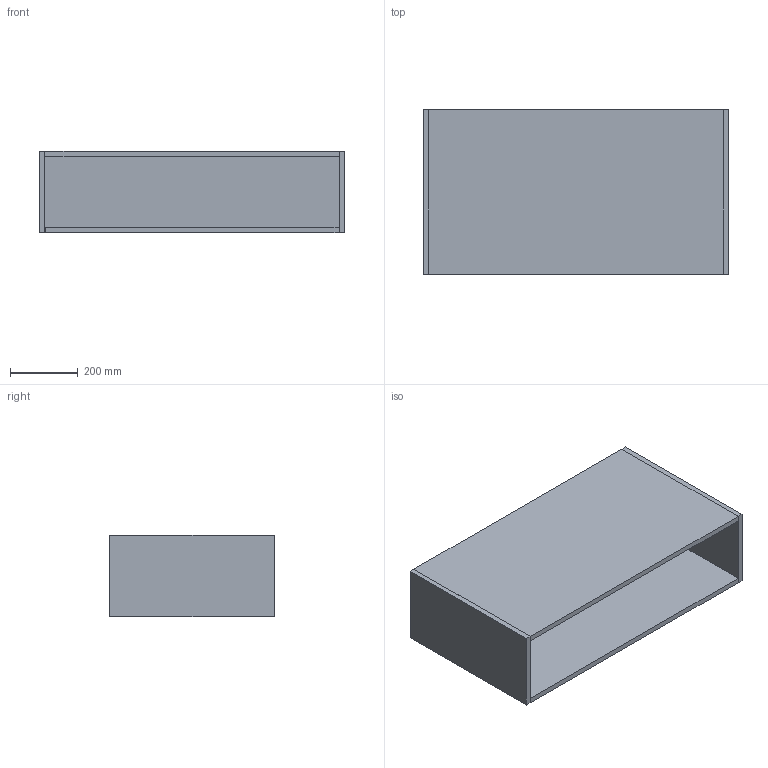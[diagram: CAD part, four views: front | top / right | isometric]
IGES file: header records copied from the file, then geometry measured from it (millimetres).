
Start section: Data from Parasolid IGES Translator 19.0.9, Copyright(c) 2006 Siemens PL M Software. All Rights Reserved.
Global section: file name: noorth-SI-H 24 D 51 W 90_8326.igs; native system: By Siemens PLM Incorporated; preprocessor: XPlus GENERIC/IGES 19.0.9; author: Noname; organization: Noname; date: 20200530.121741; units: metre
Bounding box: 900.01 x 486.06 x 240 mm (x, y, z)
Volume: 17748743.7 mm3; surface area: 2654452.3 mm2
Topology: 5 solids, 5 shells, 30 faces, 60 edges, 40 vertices
Faces by surface type: plane 30
